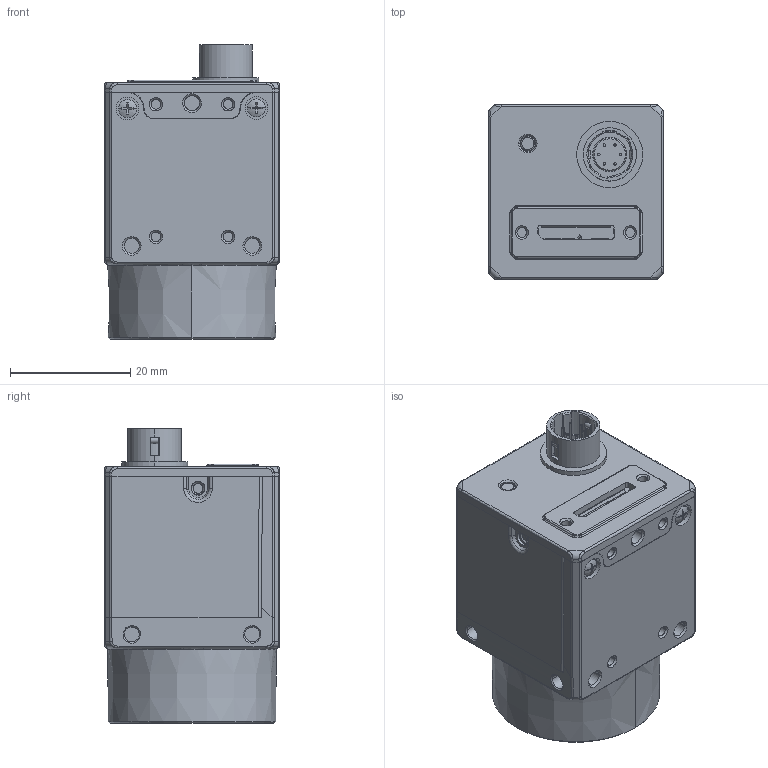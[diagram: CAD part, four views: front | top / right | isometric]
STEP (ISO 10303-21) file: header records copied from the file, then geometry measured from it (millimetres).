
FILE_DESCRIPTION((''),'2;1');
FILE_NAME('00-CS060-U_ASM_ASM_ASM_ASM_ASM','2020-12-31T13:36:31',('gengdawei'),(''),'CREO PARAMETRIC BY PTC INC, 2017260','CREO PARAMETRIC BY PTC INC, 2017260','');
FILE_SCHEMA(('CONFIG_CONTROL_DESIGN'));
Products named in the file (2): MSBR-1; 00-CS060-U_ASM_ASM_ASM_ASM_ASM
Assembly tree (1 placements, depth 2):
  00-CS060-U_ASM_ASM_ASM_ASM_ASM
    MSBR-1
Bounding box: 29.03 x 29 x 48.91 mm (x, y, z)
Volume: 25404.1 mm3; surface area: 15038.8 mm2
Topology: 1 solids, 18 shells, 2075 faces, 5687 edges, 3688 vertices
Faces by surface type: plane 1196, cylinder 636, cone 105, bspline 66, torus 58, sphere 14
Entity records: 71797 total; most frequent: CARTESIAN_POINT 18825, ORIENTED_EDGE 11346, DIRECTION 10790, EDGE_CURVE 5673, VECTOR 3692, LINE 3692, VERTEX_POINT 3688, AXIS2_PLACEMENT_3D 3549
